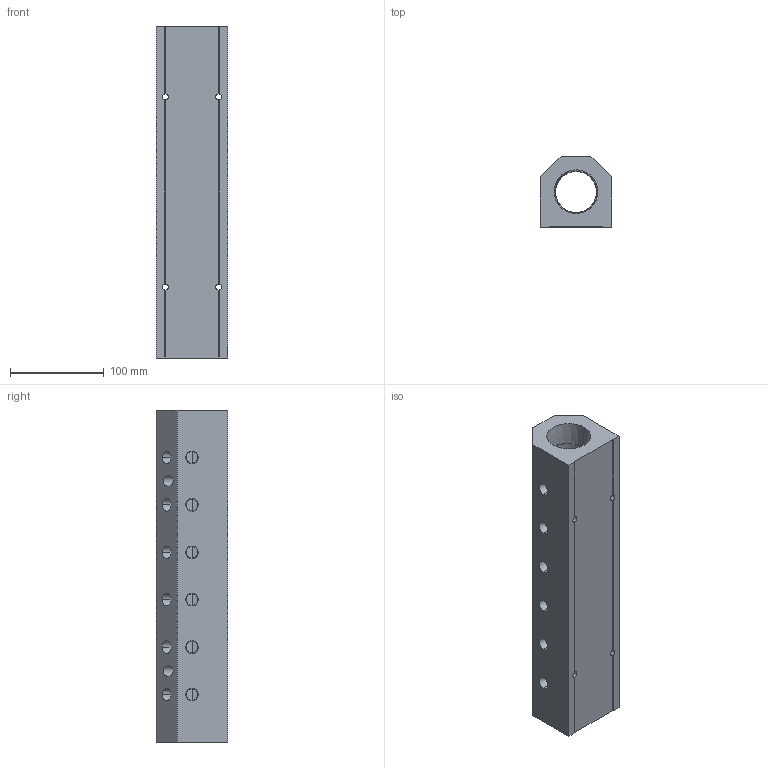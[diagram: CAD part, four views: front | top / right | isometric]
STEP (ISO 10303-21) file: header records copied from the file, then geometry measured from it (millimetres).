
FILE_DESCRIPTION (( 'STEP AP214' ), '1' );
FILE_NAME ('ALM6AB-N4N24-355B.step', '2022-02-07T07:46:18', ( '' ), ( '' ), 'SwSTEP 2.0', 'SolidWorks 2020', '' );
FILE_SCHEMA (( 'AUTOMOTIVE_DESIGN' ));
Length unit declared in the file: millimetre
Products named in the file (1): ALM6AB-N4N24-355B
Bounding box: 76.2 x 76.2 x 355 mm (x, y, z)
Volume: 1294308 mm3; surface area: 166135.4 mm2
Topology: 1 solids, 1 shells, 336 faces, 898 edges, 592 vertices
Faces by surface type: plane 222, bspline 68, cone 28, cylinder 18
Entity records: 18666 total; most frequent: CARTESIAN_POINT 7535, ORIENTED_EDGE 1796, DIRECTION 1320, EDGE_CURVE 898, LINE 662, VECTOR 662, VERTEX_POINT 592, EDGE_LOOP 398
